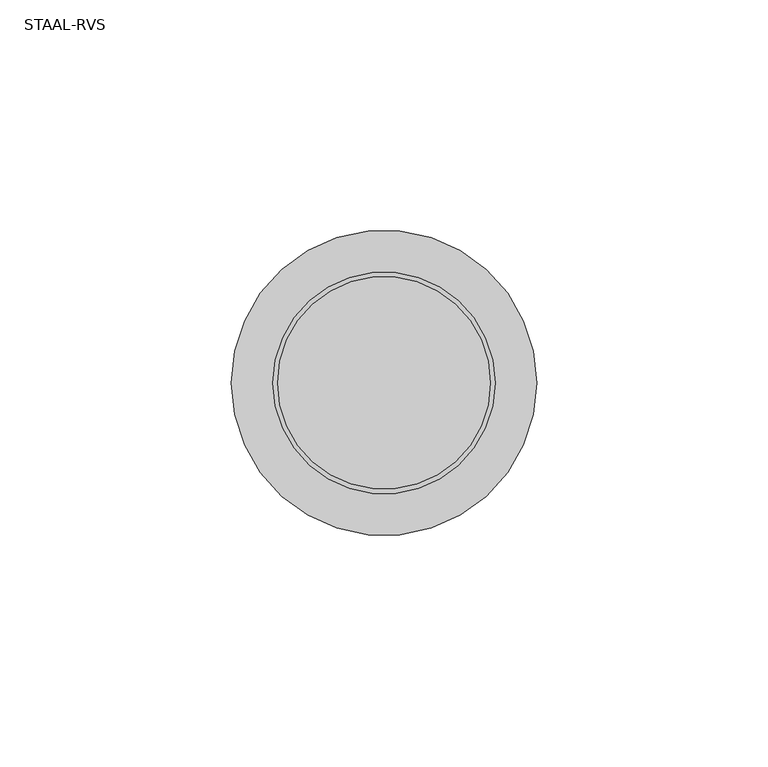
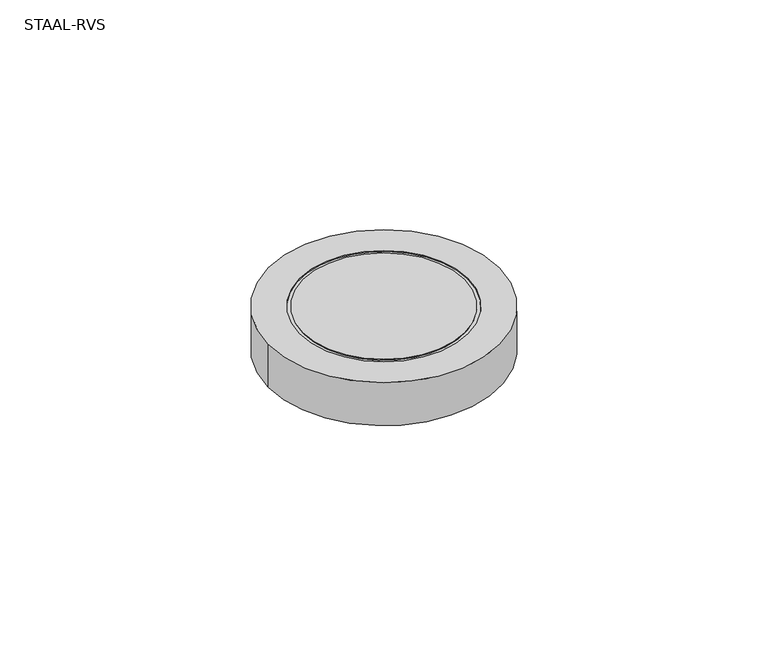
"""IFC4 building model written with IfcOpenShell, lengths in millimetres: flow terminal geometry, NLRS_74_PF_FB_bedieningspaneel solo steel incl pneumatische hefboom_wisa : STAAL-RVS."""

from ifc_helpers import new_model, si_unit, point, origin, origin_with_axes, origin_2d, place, context, project, spatial, circle_curve, trimmed, segment, composite_curve, outline, extrude, source, transform, mapped, element, save


def staal_rvs_661b73d9(model_context):
    return source(origin(), model_context, "Body", "SweptSolid", [
        extrude(outline(composite_curve([segment(trimmed(circle_curve(origin_2d(), 23.0), [point((-23.0, 0.0))], [point((23.0, 0.0))], False, "CARTESIAN"), True, "CONTINUOUS"), segment(trimmed(circle_curve(origin_2d(), 23.0), [point((23.0, 0.0))], [point((-23.0, 0.0))], False, "CARTESIAN"), True, "CONTINUOUS")], self_intersect=False)), origin_with_axes(), (0.0, 0.0, 1.0), 13.0),
        extrude(outline(composite_curve([segment(trimmed(circle_curve(origin_2d(), 33.0), [point((-33.0, 0.0))], [point((33.0, 0.0))], False, "CARTESIAN"), True, "CONTINUOUS"), segment(trimmed(circle_curve(origin_2d(), 33.0), [point((33.0, 0.0))], [point((-33.0, 0.0))], False, "CARTESIAN"), True, "CONTINUOUS")], self_intersect=False), holes=[composite_curve([segment(trimmed(circle_curve(origin_2d(), 24.0), [point((-24.0, 0.0))], [point((24.0, 0.0))], True, "CARTESIAN"), True, "CONTINUOUS"), segment(trimmed(circle_curve(origin_2d(), 24.0), [point((24.0, 0.0))], [point((-24.0, 0.0))], True, "CARTESIAN"), True, "CONTINUOUS")], self_intersect=False)]), origin_with_axes(), (0.0, 0.0, 1.0), 13.0),
        extrude(outline(composite_curve([segment(trimmed(circle_curve(origin_2d(), 33.0), [point((-33.0, 0.0))], [point((33.0, 0.0))], False, "CARTESIAN"), True, "CONTINUOUS"), segment(trimmed(circle_curve(origin_2d(), 33.0), [point((33.0, 0.0))], [point((-33.0, 0.0))], False, "CARTESIAN"), True, "CONTINUOUS")], self_intersect=False)), origin_with_axes(), (0.0, 0.0, 1.0), 13.0),
    ])


if __name__ == "__main__":
    model = new_model("IFC4")
    model_context = context("Model", 3, world=origin())
    ifc_project = project(units=[si_unit("LENGTHUNIT", "METRE", prefix="MILLI")], contexts=[model_context])
    site = spatial("IfcSite", under=ifc_project)
    building = spatial("IfcBuilding", under=site)
    placement = place(None, origin())
    staal_rvs_shape = staal_rvs_661b73d9(model_context)
    element("IfcFlowTerminal", 1, ObjectType="NLRS_74_PF_FB_bedieningspaneel solo steel incl pneumatische hefboom_wisa : STAAL-RVS", at=placement, inside=building, context=model_context, shape_type="MappedRepresentation", body=[
        mapped(staal_rvs_shape, transform((0.0, 0.0, 0.0), x_axis=(1.0, 0.0, 0.0), y_axis=(0.0, 1.0, 0.0), z_axis=(0.0, 0.0, 1.0))),
    ])
    save(model, "model.ifc")
